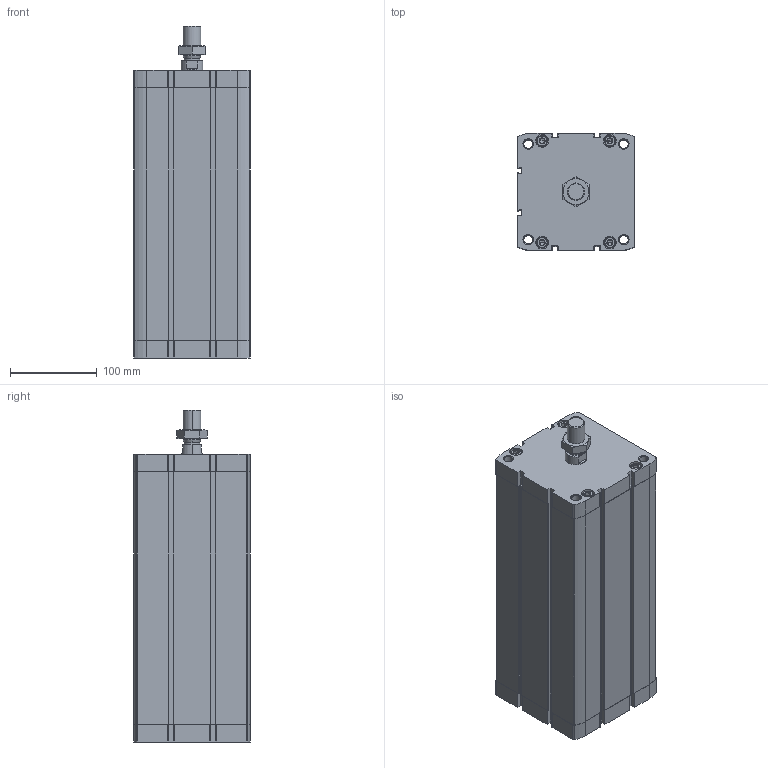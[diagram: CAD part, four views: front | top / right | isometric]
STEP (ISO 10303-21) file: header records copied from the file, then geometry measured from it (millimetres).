
FILE_DESCRIPTION (( 'STEP AP203' ), '1' );
FILE_NAME ('CCN125-250M.STEP', '2020-06-05T19:24:54', ( '' ), ( '' ), 'SwSTEP 2.0', 'SolidWorks 2019', '' );
FILE_SCHEMA (( 'CONFIG_CONTROL_DESIGN' ));
Length unit declared in the file: millimetre
Products named in the file (1): CCN125-250M
Bounding box: 134.6 x 134.6 x 382 mm (x, y, z)
Volume: 2811922.4 mm3; surface area: 483774.8 mm2
Topology: 3 solids, 3 shells, 555 faces, 1412 edges, 886 vertices
Faces by surface type: plane 275, cylinder 196, cone 80, torus 4
Entity records: 18163 total; most frequent: CARTESIAN_POINT 4452, DIRECTION 2966, ORIENTED_EDGE 2792, EDGE_CURVE 1396, AXIS2_PLACEMENT_3D 1092, VERTEX_POINT 886, LINE 782, VECTOR 782
